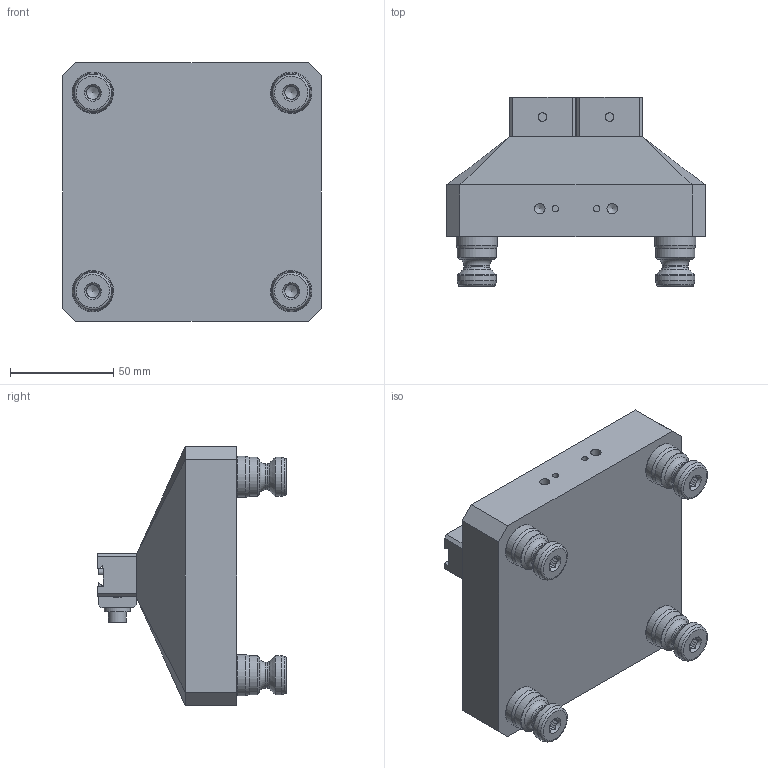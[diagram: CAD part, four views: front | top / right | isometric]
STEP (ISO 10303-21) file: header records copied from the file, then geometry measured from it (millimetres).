
FILE_DESCRIPTION (( 'STEP AP214' ), '1' );
FILE_NAME ('A96-2DM12_WEBSITE.step', '2025-08-14T15:49:45', ( '' ), ( '' ), 'SwSTEP 2.0', 'SolidWorks 2024', '' );
FILE_SCHEMA (( 'AUTOMOTIVE_DESIGN' ));
Length unit declared in the file: millimetre
Products named in the file (12): D_91595A108_METRIC ALLOY STEEL DOWEL PIN_WEBSITE_91595A108; D_CLW10M_WEBSITE_CLW10; A96-DM12-1_WEBSITE; D_DM12-1_WEBSITE_D051251WM; D_HW.0203X0500.FW_WEBSITE_DEFAULT; D_91595A100_METRIC ALLOY STEEL DOWEL PIN_WEBSITE_91595A100; D_PS20F-1_WEBSITE_HARD TURN; D_DM12_WEBSITE; D_39874.CPSS_WEBSITE_91390A162; D_76124_WEBSITE_91290A242; A96-2DM12_WEBSITE; D_PS20F_WEBSITE
Assembly tree (22 placements, depth 3):
  A96-2DM12_WEBSITE
    A96-DM12-1_WEBSITE
    D_PS20F_WEBSITE  x4
      D_PS20F-1_WEBSITE_HARD TURN
      D_39874.CPSS_WEBSITE_91390A162
    D_DM12_WEBSITE  x2
      D_DM12-1_WEBSITE_D051251WM
      D_CLW10M_WEBSITE_CLW10
      D_HW.0203X0500.FW_WEBSITE_DEFAULT
      D_91595A100_METRIC ALLOY STEEL DOWEL PIN_WEBSITE_91595A100
      D_91595A108_METRIC ALLOY STEEL DOWEL PIN_WEBSITE_91595A108
      D_76124_WEBSITE_91290A242
    D_76124_WEBSITE_91290A242  x4
Bounding box: 125 x 91.4 x 125 mm (x, y, z)
Volume: 611506 mm3; surface area: 83489.9 mm2
Topology: 31 solids, 31 shells, 600 faces, 1272 edges, 778 vertices
Faces by surface type: plane 328, cone 126, cylinder 114, torus 32
Full cylindrical faces by diameter (mm): 2.997 x6, 3 x6, 3.03 x8, 4.2 x8, 4.978 x2, 5 x12, 5.159 x2, 5.3 x4, 6.147 x4, 6.756 x2, 8.5 x18, 8.6 x4, 10 x8, 12.497 x4, 12.7 x2, 15.992 x4, 16.02 x4, 19.012 x8, 19.972 x4
Entity records: 6252 total; most frequent: CARTESIAN_POINT 987, DIRECTION 935, ORIENTED_EDGE 694, AXIS2_PLACEMENT_3D 374, EDGE_CURVE 347, EDGE_LOOP 327, FACE_OUTER_BOUND 266, VERTEX_POINT 262
